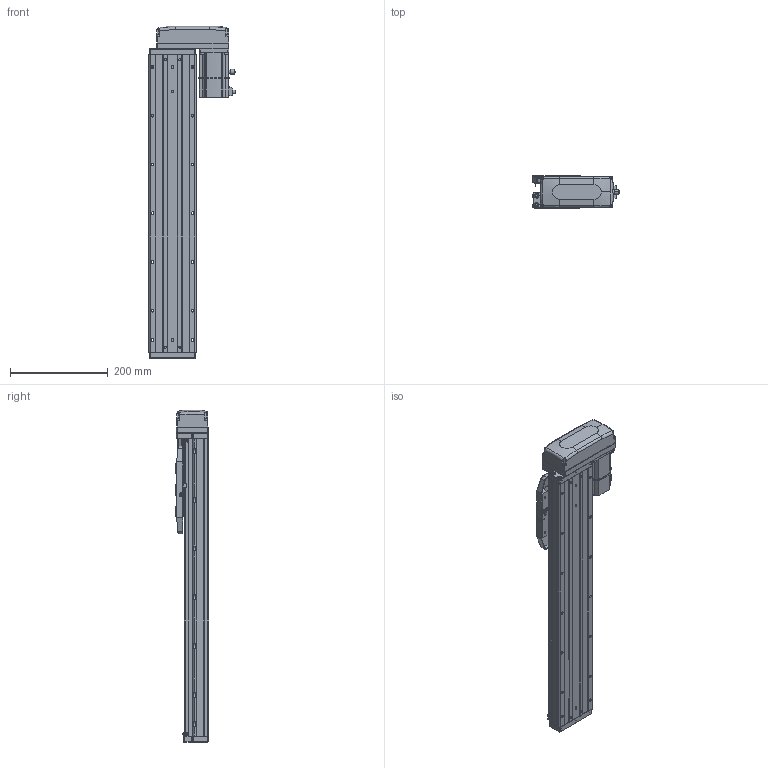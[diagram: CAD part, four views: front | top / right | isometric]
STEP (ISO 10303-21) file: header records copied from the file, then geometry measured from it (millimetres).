
FILE_DESCRIPTION (( 'STEP AP203' ), '1' );
FILE_NAME ('CTHA100-400-BL-M20-C4L.step', '2022-07-06T08:57:13', ( '微软用户' ), ( '微软中国' ), 'SwSTEP 2.0', 'SolidWorks 2020', '' );
FILE_SCHEMA (( 'CONFIG_CONTROL_DESIGN' ));
Length unit declared in the file: millimetre
Products named in the file (19): KTHA100-005; GBT70.1 M5℅16; CTHA86-015-1_CTHA86-015-2; GB¨uT 70.2-M3¡Á5_M3¡Á6; CTHA60-016; CTHA86-033; EE_SX911P_R; _X2_4E0983F1_X0_200W_1; CTHA100-400-BL-M20-C4L; CTHA60-017; CTHA100-002; CTHA60-021; CTHA100-031; KTHA100-001_610; GBT77-2000 M3×3; CTHA86-030; KTHA100-004; GBT 70.1-M3℅6; GBT 70.3-M3℅6
Assembly tree (64 placements, depth 2):
  CTHA100-400-BL-M20-C4L
    KTHA100-001_610
    KTHA100-004
    KTHA100-005
    GB¨uT 70.2-M3¡Á5_M3¡Á6  x10
    EE_SX911P_R  x3
    CTHA60-017  x3
    CTHA60-021  x2
    GBT77-2000 M3×3  x6
    GBT 70.1-M3℅6  x10
    GBT70.1 M5℅16  x14
    CTHA60-016  x2
    _X2_4E0983F1_X0_200W_1
    CTHA100-002
    CTHA100-031
    CTHA86-030  x2
    GBT 70.3-M3℅6  x4
    CTHA86-015-1_CTHA86-015-2
    CTHA86-033
Bounding box: 177.7 x 68 x 681 mm (x, y, z)
Volume: 3081035 mm3; surface area: 534453 mm2
Topology: 66 solids, 66 shells, 2649 faces, 6359 edges, 3940 vertices
Faces by surface type: plane 1380, cylinder 695, cone 351, torus 124, bspline 75, sphere 24
Entity records: 45346 total; most frequent: CARTESIAN_POINT 8923, DIRECTION 6984, ORIENTED_EDGE 6834, EDGE_CURVE 3417, AXIS2_PLACEMENT_3D 2373, LINE 2238, VECTOR 2238, VERTEX_POINT 2160
